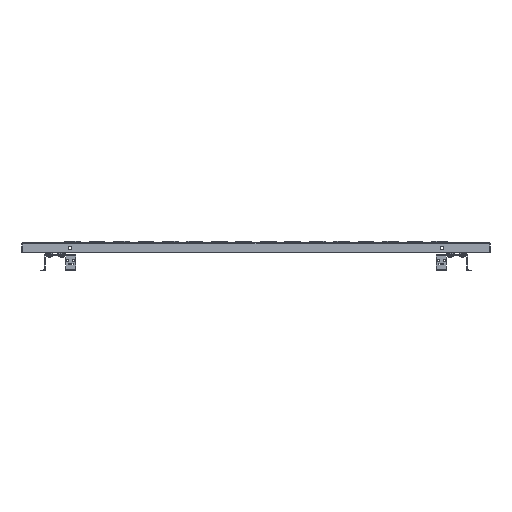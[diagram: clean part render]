
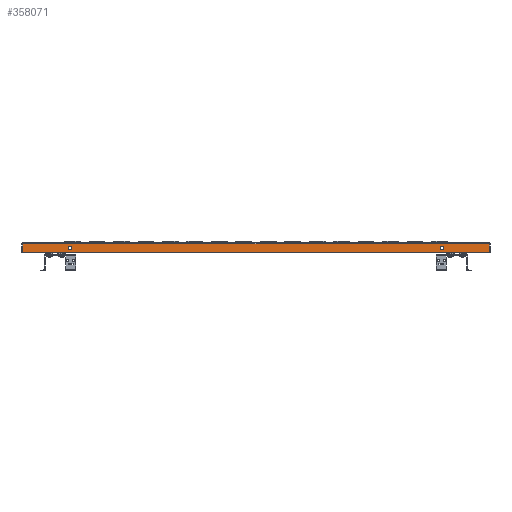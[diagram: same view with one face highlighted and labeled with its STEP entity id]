
A CAD part, front view. The second image highlights one B-rep face of the part: STEP entity #358071.
In plain terms, the highlighted planar face has unit normal (0, -1, 0).
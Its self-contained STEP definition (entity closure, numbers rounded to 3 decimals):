
#147546=CARTESIAN_POINT(' ',(495.25,-137.5,-2.1));
#147547=VERTEX_POINT(' ',#147546);
#148096=CARTESIAN_POINT(' ',(-495.25,-137.5,-2.1));
#148097=VERTEX_POINT(' ',#148096);
#253441=CARTESIAN_POINT(' ',(-495.25,-137.5,-2.1));
#253446=DIRECTION(' ',(1.,0.,0.));
#253451=VECTOR(' ',#253446,1.);
#253456=LINE('',#253441,#253451);
#253461=EDGE_CURVE(' ',#148097,#147547,#253456,.T.);
#253516=CARTESIAN_POINT(' ',(495.25,-137.5,-2.1));
#253521=DIRECTION(' ',(0.,0.,-1.));
#253526=VECTOR(' ',#253521,1.);
#253531=LINE('',#253516,#253526);
#253536=CARTESIAN_POINT(' ',(495.25,-137.5,-20.));
#253537=VERTEX_POINT(' ',#253536);
#253541=EDGE_CURVE(' ',#147547,#253537,#253531,.T.);
#253641=CARTESIAN_POINT(' ',(-495.25,-137.5,-20.));
#253646=DIRECTION(' ',(1.,0.,0.));
#253651=VECTOR(' ',#253646,1.);
#253656=LINE('',#253641,#253651);
#253661=CARTESIAN_POINT(' ',(-495.25,-137.5,-20.));
#253662=VERTEX_POINT(' ',#253661);
#253666=EDGE_CURVE(' ',#253662,#253537,#253656,.T.);
#253746=CARTESIAN_POINT(' ',(-495.25,-137.5,-2.1));
#253751=DIRECTION(' ',(0.,0.,-1.));
#253756=VECTOR(' ',#253751,1.);
#253761=LINE('',#253746,#253756);
#253766=EDGE_CURVE(' ',#148097,#253662,#253761,.T.);
#253856=CARTESIAN_POINT(' ',(-395.,-137.5,-7.));
#253857=VERTEX_POINT(' ',#253856);
#253871=CARTESIAN_POINT(' ',(-395.,-137.5,-11.));
#253876=DIRECTION(' ',(0.,1.,0.));
#253881=DIRECTION(' ',(0.,0.,-1.));
#253886=AXIS2_PLACEMENT_3D(' ',#253871,#253876,#253881);
#253891=CIRCLE('',#253886,4.);
#253896=CARTESIAN_POINT(' ',(-395.,-137.5,-15.));
#253897=VERTEX_POINT(' ',#253896);
#253901=EDGE_CURVE(' ',#253897,#253857,#253891,.T.);
#253996=CARTESIAN_POINT(' ',(-395.,-137.5,-11.));
#254001=DIRECTION(' ',(0.,1.,0.));
#254006=DIRECTION(' ',(0.,0.,1.));
#254011=AXIS2_PLACEMENT_3D(' ',#253996,#254001,#254006);
#254016=CIRCLE('',#254011,4.);
#254021=EDGE_CURVE(' ',#253857,#253897,#254016,.T.);
#254096=CARTESIAN_POINT(' ',(395.,-137.5,-7.));
#254097=VERTEX_POINT(' ',#254096);
#254111=CARTESIAN_POINT(' ',(395.,-137.5,-11.));
#254116=DIRECTION(' ',(0.,1.,0.));
#254121=DIRECTION(' ',(0.,0.,-1.));
#254126=AXIS2_PLACEMENT_3D(' ',#254111,#254116,#254121);
#254131=CIRCLE('',#254126,4.);
#254136=CARTESIAN_POINT(' ',(395.,-137.5,-15.));
#254137=VERTEX_POINT(' ',#254136);
#254141=EDGE_CURVE(' ',#254137,#254097,#254131,.T.);
#254236=CARTESIAN_POINT(' ',(395.,-137.5,-11.));
#254241=DIRECTION(' ',(0.,1.,0.));
#254246=DIRECTION(' ',(0.,0.,1.));
#254251=AXIS2_PLACEMENT_3D(' ',#254236,#254241,#254246);
#254256=CIRCLE('',#254251,4.);
#254261=EDGE_CURVE(' ',#254097,#254137,#254256,.T.);
#357976=DIRECTION(' ',(0.,-1.,0.));
#357981=CARTESIAN_POINT(' ',(-495.25,-137.5,-20.));
#357986=DIRECTION(' ',(1.,0.,0.));
#357991=AXIS2_PLACEMENT_3D(' ',#357981,#357976,#357986);
#357996=PLANE('NONE',#357991);
#358001=ORIENTED_EDGE(' ',*,*,#253461,.F.);
#358006=ORIENTED_EDGE(' ',*,*,#253766,.T.);
#358011=ORIENTED_EDGE(' ',*,*,#253666,.T.);
#358016=ORIENTED_EDGE(' ',*,*,#253541,.F.);
#358021=EDGE_LOOP(' ',(#358001,#358006,#358011,#358016));
#358026=FACE_OUTER_BOUND(' ',#358021,.T.);
#358031=ORIENTED_EDGE(' ',*,*,#253901,.T.);
#358036=ORIENTED_EDGE(' ',*,*,#254021,.T.);
#358041=EDGE_LOOP(' ',(#358031,#358036));
#358046=FACE_BOUND(' ',#358041,.T.);
#358051=ORIENTED_EDGE(' ',*,*,#254141,.T.);
#358056=ORIENTED_EDGE(' ',*,*,#254261,.T.);
#358061=EDGE_LOOP(' ',(#358051,#358056));
#358066=FACE_BOUND(' ',#358061,.T.);
#358071=ADVANCED_FACE('NONE',(#358026,#358046,#358066),#357996,.T.);
